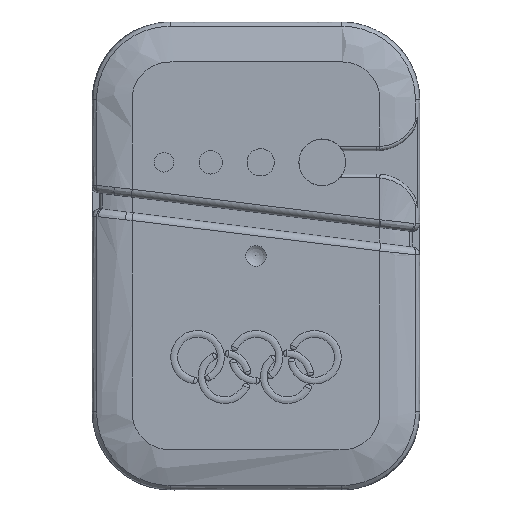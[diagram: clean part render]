
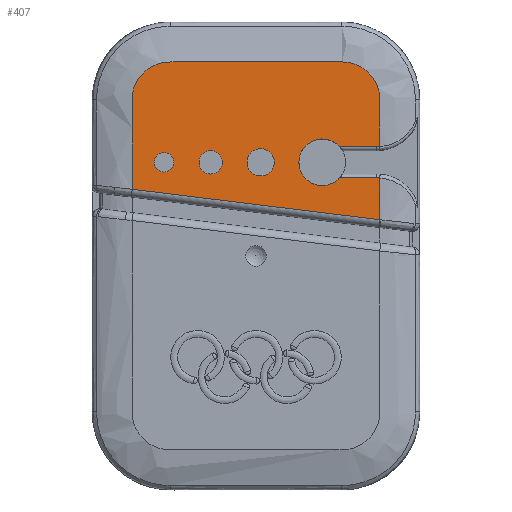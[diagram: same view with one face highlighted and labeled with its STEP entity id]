
A CAD part, top view. The second image highlights one B-rep face of the part: STEP entity #407.
In plain terms, the highlighted planar face has unit normal (0, 0, 1).
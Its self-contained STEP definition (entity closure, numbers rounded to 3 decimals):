
#407=ADVANCED_FACE('',(#739,#740,#741,#742),#548,.T.);
#548=PLANE('',#3000);
#610=B_SPLINE_CURVE_WITH_KNOTS('',3,(#12372,#12373,#12374,#12375),
 .UNSPECIFIED.,.F.,.F.,(4,4),(0.,1.),.UNSPECIFIED.);
#632=B_SPLINE_CURVE_WITH_KNOTS('',3,(#15884,#15885,#15886,#15887,#15888,
#15889,#15890,#15891,#15892,#15893,#15894,#15895,#15896,#15897,#15898,#15899,
#15900,#15901,#15902,#15903,#15904,#15905,#15906,#15907,#15908,#15909,#15910,
#15911,#15912,#15913,#15914,#15915,#15916,#15917,#15918,#15919,#15920,#15921,
#15922,#15923,#15924,#15925,#15926,#15927),.UNSPECIFIED.,.F.,.F.,(4,1,1,
1,1,1,1,1,1,1,1,1,1,1,1,1,1,1,1,1,1,1,1,1,1,1,1,1,1,1,1,1,1,1,1,1,1,1,1,
1,1,4),(0.,0.044,0.127,0.147,0.158,
0.163,0.168,0.209,0.25,
0.291,0.333,0.353,0.374,
0.376,0.379,0.382,0.384,
0.389,0.394,0.415,0.456,
0.539,0.621,0.662,0.683,
0.688,0.693,0.696,0.698,0.701,
0.703,0.724,0.745,0.786,
0.827,0.868,0.909,0.915,
0.92,0.93,0.951,1.),.UNSPECIFIED.);
#739=FACE_BOUND('',#845,.T.);
#740=FACE_BOUND('',#846,.T.);
#741=FACE_BOUND('',#847,.T.);
#742=FACE_BOUND('',#848,.T.);
#845=EDGE_LOOP('',(#1568,#1569,#1570,#1571,#1572,#1573,#1574,#1575));
#846=EDGE_LOOP('',(#1576));
#847=EDGE_LOOP('',(#1577));
#848=EDGE_LOOP('',(#1578));
#1047=LINE('',#15707,#1194);
#1048=LINE('',#15727,#1195);
#1061=LINE('',#15929,#1208);
#1194=VECTOR('',#3412,1.);
#1195=VECTOR('',#3415,1.);
#1208=VECTOR('',#3492,1.);
#1568=ORIENTED_EDGE('',*,*,#2556,.F.);
#1569=ORIENTED_EDGE('',*,*,#2557,.T.);
#1570=ORIENTED_EDGE('',*,*,#2443,.F.);
#1571=ORIENTED_EDGE('',*,*,#2518,.T.);
#1572=ORIENTED_EDGE('',*,*,#2515,.T.);
#1573=ORIENTED_EDGE('',*,*,#2532,.F.);
#1574=ORIENTED_EDGE('',*,*,#2513,.T.);
#1575=ORIENTED_EDGE('',*,*,#2508,.T.);
#1576=ORIENTED_EDGE('',*,*,#2535,.T.);
#1577=ORIENTED_EDGE('',*,*,#2539,.T.);
#1578=ORIENTED_EDGE('',*,*,#2537,.T.);
#2164=VERTEX_POINT('',#12376);
#2165=VERTEX_POINT('',#12377);
#2221=VERTEX_POINT('',#15681);
#2222=VERTEX_POINT('',#15683);
#2225=VERTEX_POINT('',#15705);
#2226=VERTEX_POINT('',#15725);
#2228=VERTEX_POINT('',#15728);
#2239=VERTEX_POINT('',#15775);
#2241=VERTEX_POINT('',#15780);
#2243=VERTEX_POINT('',#15785);
#2256=VERTEX_POINT('',#15928);
#2443=EDGE_CURVE('',#2164,#2165,#610,.T.);
#2508=EDGE_CURVE('',#2222,#2221,#2795,.T.);
#2513=EDGE_CURVE('',#2225,#2222,#1047,.T.);
#2515=EDGE_CURVE('',#2228,#2226,#1048,.T.);
#2518=EDGE_CURVE('',#2164,#2228,#2799,.T.);
#2532=EDGE_CURVE('',#2225,#2226,#2804,.T.);
#2535=EDGE_CURVE('',#2239,#2239,#2807,.T.);
#2537=EDGE_CURVE('',#2241,#2241,#2809,.T.);
#2539=EDGE_CURVE('',#2243,#2243,#2811,.T.);
#2556=EDGE_CURVE('',#2256,#2221,#632,.T.);
#2557=EDGE_CURVE('',#2256,#2165,#1061,.T.);
#2795=CIRCLE('',#2963,5.);
#2799=CIRCLE('',#2970,5.);
#2804=CIRCLE('',#2980,3.);
#2807=CIRCLE('',#2984,1.75);
#2809=CIRCLE('',#2987,1.5);
#2811=CIRCLE('',#2990,1.25);
#2963=AXIS2_PLACEMENT_3D('',#15682,#3403,#3404);
#2970=AXIS2_PLACEMENT_3D('',#15733,#3421,#3422);
#2980=AXIS2_PLACEMENT_3D('',#15769,#3447,#3448);
#2984=AXIS2_PLACEMENT_3D('',#15774,#3455,#3456);
#2987=AXIS2_PLACEMENT_3D('',#15779,#3461,#3462);
#2990=AXIS2_PLACEMENT_3D('',#15784,#3467,#3468);
#3000=AXIS2_PLACEMENT_3D('',#15930,#3493,#3494);
#3403=DIRECTION('',(0.,0.,1.));
#3404=DIRECTION('',(1.,0.,0.));
#3412=DIRECTION('',(1.,0.,0.));
#3415=DIRECTION('',(-1.,0.,0.));
#3421=DIRECTION('',(0.,0.,1.));
#3422=DIRECTION('',(1.,0.,0.));
#3447=DIRECTION('',(0.,0.,1.));
#3448=DIRECTION('',(1.,0.,0.));
#3455=DIRECTION('',(0.,0.,-1.));
#3456=DIRECTION('',(1.,0.,0.));
#3461=DIRECTION('',(0.,0.,-1.));
#3462=DIRECTION('',(1.,0.,0.));
#3467=DIRECTION('',(0.,0.,-1.));
#3468=DIRECTION('',(1.,0.,0.));
#3492=DIRECTION('',(0.993,-0.122,0.));
#3493=DIRECTION('',(0.,0.,1.));
#3494=DIRECTION('',(1.,0.,0.));
#12372=CARTESIAN_POINT('',(15.877,9.986,12.243));
#12373=CARTESIAN_POINT('',(15.877,8.205,12.243));
#12374=CARTESIAN_POINT('',(15.877,6.425,12.243));
#12375=CARTESIAN_POINT('',(15.877,4.644,12.243));
#12376=CARTESIAN_POINT('',(15.877,9.986,12.243));
#12377=CARTESIAN_POINT('',(15.877,4.644,12.243));
#15681=CARTESIAN_POINT('',(15.877,14.014,12.243));
#15682=CARTESIAN_POINT('',(15.5,19.,12.243));
#15683=CARTESIAN_POINT('',(15.5,14.,12.243));
#15705=CARTESIAN_POINT('',(10.736,14.,12.243));
#15707=CARTESIAN_POINT('',(15.5,14.,12.243));
#15725=CARTESIAN_POINT('',(10.736,10.,12.243));
#15727=CARTESIAN_POINT('',(11.098,10.,12.243));
#15728=CARTESIAN_POINT('',(15.5,10.,12.243));
#15733=CARTESIAN_POINT('',(15.5,5.,12.243));
#15769=CARTESIAN_POINT('',(8.5,12.,12.243));
#15774=CARTESIAN_POINT('',(0.6,12.,12.243));
#15775=CARTESIAN_POINT('',(2.35,12.,12.243));
#15779=CARTESIAN_POINT('',(-5.8,12.,12.243));
#15780=CARTESIAN_POINT('',(-4.3,12.,12.243));
#15784=CARTESIAN_POINT('',(-11.8,12.,12.243));
#15785=CARTESIAN_POINT('',(-10.55,12.,12.243));
#15884=CARTESIAN_POINT('',(-15.877,8.543,12.243));
#15885=CARTESIAN_POINT('',(-15.877,9.588,12.243));
#15886=CARTESIAN_POINT('',(-15.877,12.579,12.243));
#15887=CARTESIAN_POINT('',(-15.876,16.057,12.243));
#15888=CARTESIAN_POINT('',(-15.877,18.729,12.243));
#15889=CARTESIAN_POINT('',(-15.876,19.592,12.243));
#15890=CARTESIAN_POINT('',(-15.878,20.02,12.243));
#15891=CARTESIAN_POINT('',(-15.861,20.737,12.243));
#15892=CARTESIAN_POINT('',(-15.689,21.633,12.243));
#15893=CARTESIAN_POINT('',(-15.019,22.914,12.243));
#15894=CARTESIAN_POINT('',(-14.011,23.948,12.243));
#15895=CARTESIAN_POINT('',(-13.012,24.501,12.243));
#15896=CARTESIAN_POINT('',(-12.039,24.787,12.243));
#15897=CARTESIAN_POINT('',(-11.59,24.851,12.243));
#15898=CARTESIAN_POINT('',(-11.24,24.871,12.243));
#15899=CARTESIAN_POINT('',(-11.158,24.875,12.243));
#15900=CARTESIAN_POINT('',(-11.069,24.876,12.243));
#15901=CARTESIAN_POINT('',(-10.879,24.877,12.243));
#15902=CARTESIAN_POINT('',(-10.585,24.877,12.243));
#15903=CARTESIAN_POINT('',(-9.853,24.877,12.243));
#15904=CARTESIAN_POINT('',(-8.271,24.877,12.243));
#15905=CARTESIAN_POINT('',(-4.865,24.877,12.243));
#15906=CARTESIAN_POINT('',(0.,24.877,12.243));
#15907=CARTESIAN_POINT('',(4.865,24.877,12.243));
#15908=CARTESIAN_POINT('',(8.271,24.877,12.243));
#15909=CARTESIAN_POINT('',(9.852,24.877,12.243));
#15910=CARTESIAN_POINT('',(10.585,24.877,12.243));
#15911=CARTESIAN_POINT('',(10.879,24.877,12.243));
#15912=CARTESIAN_POINT('',(11.069,24.876,12.243));
#15913=CARTESIAN_POINT('',(11.157,24.875,12.243));
#15914=CARTESIAN_POINT('',(11.24,24.871,12.243));
#15915=CARTESIAN_POINT('',(11.59,24.851,12.243));
#15916=CARTESIAN_POINT('',(12.039,24.787,12.243));
#15917=CARTESIAN_POINT('',(13.012,24.501,12.243));
#15918=CARTESIAN_POINT('',(14.011,23.948,12.243));
#15919=CARTESIAN_POINT('',(15.019,22.914,12.243));
#15920=CARTESIAN_POINT('',(15.688,21.633,12.243));
#15921=CARTESIAN_POINT('',(15.861,20.737,12.243));
#15922=CARTESIAN_POINT('',(15.878,20.02,12.243));
#15923=CARTESIAN_POINT('',(15.876,19.592,12.243));
#15924=CARTESIAN_POINT('',(15.877,18.729,12.243));
#15925=CARTESIAN_POINT('',(15.876,16.835,12.243));
#15926=CARTESIAN_POINT('',(15.876,15.181,12.243));
#15927=CARTESIAN_POINT('',(15.877,14.014,12.243));
#15928=CARTESIAN_POINT('',(-15.877,8.543,12.243));
#15929=CARTESIAN_POINT('',(14.053,4.868,12.243));
#15930=CARTESIAN_POINT('',(11.,-20.,12.243));
